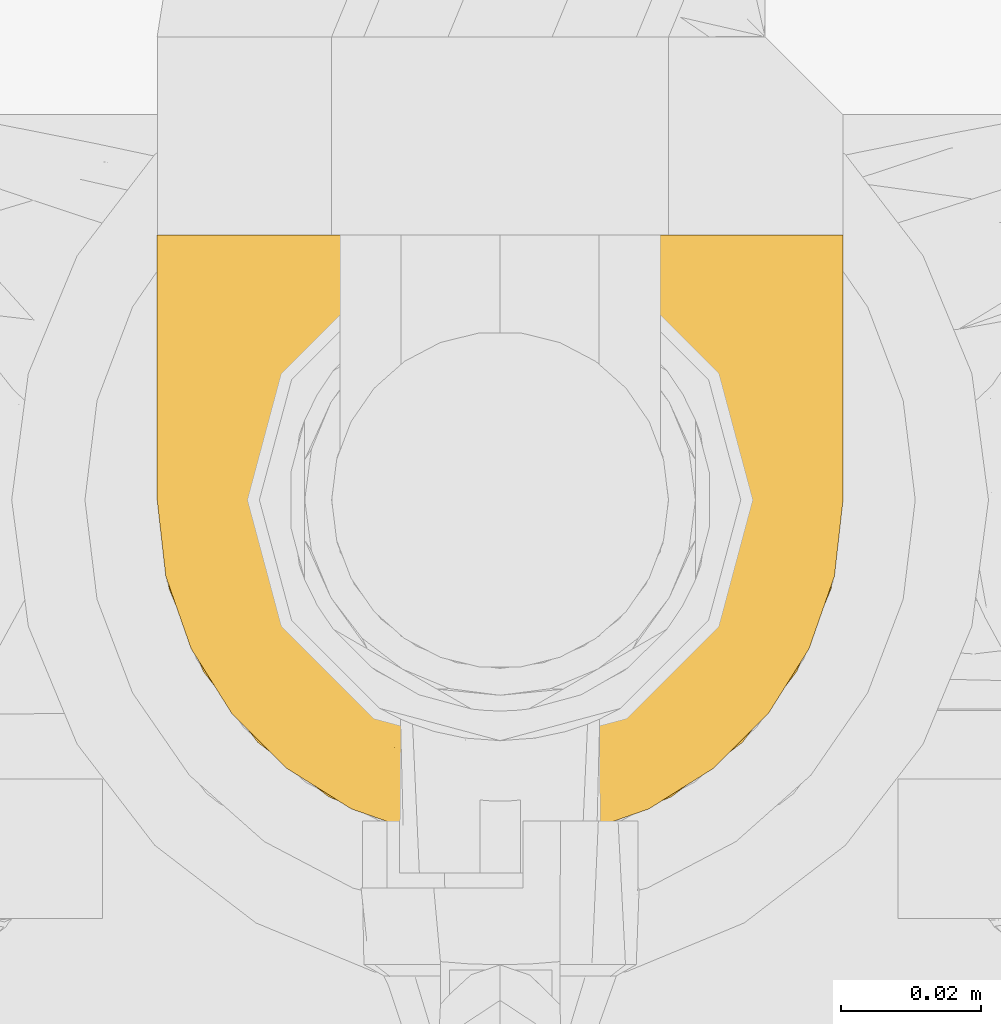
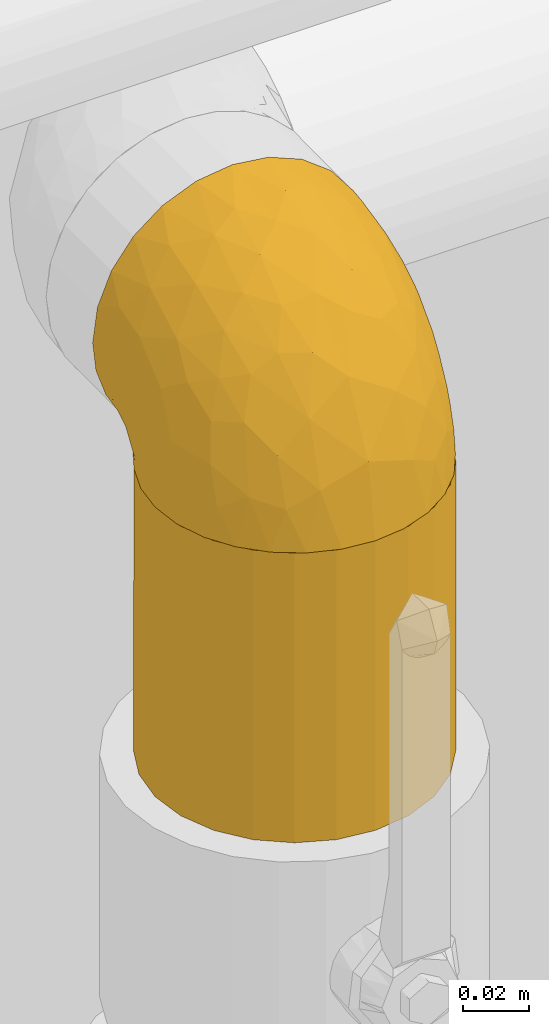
# One storey, part 26 of 94: 2 coverings.
"""IFC2X3 building model written with IfcOpenShell, lengths in millimetres."""

from ifc_helpers import new_model, entity, si_unit, converted_unit, derived_unit, direction, frame, origin, place, context, subcontext, project, spatial, faceted_brep, material, element, save


model = new_model("IFC2X3")

# Units and contexts
model_context = context("Model", 3, precision=0.01, world=origin(), true_north=direction((6.123031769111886e-17, 1.0)))
body_context = subcontext(model_context, "Body", "Model", "MODEL_VIEW")
ifc_project = project(units=[si_unit("LENGTHUNIT", "METRE", prefix="MILLI"), si_unit("AREAUNIT", "SQUARE_METRE"), si_unit("VOLUMEUNIT", "CUBIC_METRE"), converted_unit("PLANEANGLEUNIT", "DEGREE", entity("IfcRatioMeasure", 0.017453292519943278), si_unit("PLANEANGLEUNIT", "RADIAN"), dimensions=[0, 0, 0, 0, 0, 0, 0]), si_unit("MASSUNIT", "GRAM", prefix="KILO"), derived_unit("MASSDENSITYUNIT", [(si_unit("MASSUNIT", "GRAM", prefix="KILO"), 1), (si_unit("LENGTHUNIT", "METRE"), -3)]), derived_unit("IONCONCENTRATIONUNIT", [(si_unit("MASSUNIT", "GRAM", prefix="KILO"), 1), (si_unit("LENGTHUNIT", "METRE"), -3)]), derived_unit("MOMENTOFINERTIAUNIT", [(si_unit("LENGTHUNIT", "METRE"), 4)]), si_unit("TIMEUNIT", "SECOND"), si_unit("FREQUENCYUNIT", "HERTZ"), si_unit("THERMODYNAMICTEMPERATUREUNIT", "DEGREE_CELSIUS"), derived_unit("THERMALTRANSMITTANCEUNIT", [(si_unit("MASSUNIT", "GRAM", prefix="KILO"), 1), (si_unit("THERMODYNAMICTEMPERATUREUNIT", "KELVIN"), -1), (si_unit("TIMEUNIT", "SECOND"), -3)]), derived_unit("THERMALCONDUCTANCEUNIT", [(si_unit("MASSUNIT", "GRAM", prefix="KILO"), 1), (si_unit("THERMODYNAMICTEMPERATUREUNIT", "KELVIN"), -1), (si_unit("TIMEUNIT", "SECOND"), -3), (si_unit("LENGTHUNIT", "METRE"), 1)]), derived_unit("VOLUMETRICFLOWRATEUNIT", [(si_unit("LENGTHUNIT", "METRE"), 3), (si_unit("TIMEUNIT", "SECOND"), -1)]), derived_unit("MASSFLOWRATEUNIT", [(si_unit("MASSUNIT", "GRAM", prefix="KILO"), 1), (si_unit("TIMEUNIT", "SECOND"), -1)]), derived_unit("ROTATIONALFREQUENCYUNIT", [(si_unit("TIMEUNIT", "SECOND"), -1)]), si_unit("ELECTRICCURRENTUNIT", "AMPERE"), si_unit("ELECTRICVOLTAGEUNIT", "VOLT"), si_unit("POWERUNIT", "WATT"), si_unit("FORCEUNIT", "NEWTON", prefix="KILO"), si_unit("ILLUMINANCEUNIT", "LUX"), si_unit("LUMINOUSFLUXUNIT", "LUMEN"), si_unit("LUMINOUSINTENSITYUNIT", "CANDELA"), derived_unit("USERDEFINED", [(si_unit("MASSUNIT", "GRAM", prefix="KILO"), -1), (si_unit("LENGTHUNIT", "METRE"), -2), (si_unit("TIMEUNIT", "SECOND"), 3), (si_unit("LUMINOUSFLUXUNIT", "LUMEN"), 1)]), derived_unit("USERDEFINED", [(si_unit("MASSUNIT", "GRAM", prefix="KILO"), 1), (si_unit("TIMEUNIT", "SECOND"), -3), (si_unit("LENGTHUNIT", "METRE"), 3), (si_unit("ELECTRICCURRENTUNIT", "AMPERE"), -2)]), derived_unit("SOUNDPOWERUNIT", [(si_unit("MASSUNIT", "GRAM", prefix="KILO"), 1), (si_unit("TIMEUNIT", "SECOND"), -3), (si_unit("LENGTHUNIT", "METRE"), 2)]), derived_unit("SOUNDPRESSUREUNIT", [(si_unit("MASSUNIT", "GRAM", prefix="KILO"), 1), (si_unit("LENGTHUNIT", "METRE"), -1), (si_unit("TIMEUNIT", "SECOND"), -2)]), derived_unit("LINEARVELOCITYUNIT", [(si_unit("LENGTHUNIT", "METRE"), 1), (si_unit("TIMEUNIT", "SECOND"), -1)]), si_unit("PRESSUREUNIT", "PASCAL"), derived_unit("USERDEFINED", [(si_unit("MASSUNIT", "GRAM", prefix="KILO"), 1), (si_unit("LENGTHUNIT", "METRE"), -2), (si_unit("TIMEUNIT", "SECOND"), -2)]), derived_unit("LINEARFORCEUNIT", [(si_unit("MASSUNIT", "GRAM", prefix="KILO"), 1), (si_unit("TIMEUNIT", "SECOND"), -2)]), derived_unit("PLANARFORCEUNIT", [(si_unit("MASSUNIT", "GRAM", prefix="KILO"), 1), (si_unit("LENGTHUNIT", "METRE"), -1), (si_unit("TIMEUNIT", "SECOND"), -2)]), derived_unit("SPECIFICHEATCAPACITYUNIT", [(si_unit("THERMODYNAMICTEMPERATUREUNIT", "KELVIN"), -1), (si_unit("LENGTHUNIT", "METRE"), 2), (si_unit("TIMEUNIT", "SECOND"), -2)]), derived_unit("HEATINGVALUEUNIT", [(si_unit("LENGTHUNIT", "METRE"), 2), (si_unit("TIMEUNIT", "SECOND"), -2)]), derived_unit("VAPORPERMEABILITYUNIT", [(si_unit("LENGTHUNIT", "METRE"), -1), (si_unit("TIMEUNIT", "SECOND"), 1)]), derived_unit("DYNAMICVISCOSITYUNIT", [(si_unit("MASSUNIT", "GRAM", prefix="KILO"), 1), (si_unit("TIMEUNIT", "SECOND"), -1), (si_unit("LENGTHUNIT", "METRE"), -1)]), derived_unit("THERMALEXPANSIONCOEFFICIENTUNIT", [(si_unit("THERMODYNAMICTEMPERATUREUNIT", "KELVIN"), -1)]), derived_unit("MODULUSOFELASTICITYUNIT", [(si_unit("MASSUNIT", "GRAM", prefix="KILO"), 1), (si_unit("LENGTHUNIT", "METRE"), -1), (si_unit("TIMEUNIT", "SECOND"), -2)]), derived_unit("ISOTHERMALMOISTURECAPACITYUNIT", [(si_unit("LENGTHUNIT", "METRE"), 3), (si_unit("MASSUNIT", "GRAM", prefix="KILO"), -1)]), derived_unit("MOISTUREDIFFUSIVITYUNIT", [(si_unit("TIMEUNIT", "SECOND"), -1), (si_unit("LENGTHUNIT", "METRE"), 2)])], contexts=[model_context])

# Site, building, storey
site_placement = place(None, origin())
site = spatial("IfcSite", under=ifc_project, at=site_placement, Name="Default", CompositionType="ELEMENT")
building_placement = place(site_placement, origin())
building = spatial("IfcBuilding", under=site, at=building_placement, CompositionType="ELEMENT")
storey_placement = place(building_placement, origin())
storey = spatial("IfcBuildingStorey", under=building, at=storey_placement, Name="Niveau 0", CompositionType="ELEMENT", Elevation=0.0)

# Coverings
ifc_material = material(Name="Isolation - Laine minérale")
covering_1_placement = place(storey_placement, frame((-7722.891137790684, 9871.725273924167, 2310.404727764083)))
element("IfcCovering", 1, at=covering_1_placement, inside=storey, material=ifc_material, Name="Isolation des canalisations:Laine minérale", ObjectType="Isolation des canalisations:Laine minérale", PredefinedType="INSULATION", context=body_context, shape_type="Brep", body=[
    faceted_brep([(95.02415814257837, 29.412134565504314, 1.595272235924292), (89.16631019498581, 20.093252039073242, 1.595272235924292), (81.38263886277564, 12.312548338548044, 1.595272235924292), (72.06354573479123, 6.459227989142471, 1.595272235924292), (61.67593083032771, 2.826140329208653, 1.595272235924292), (50.74527223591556, 1.5952722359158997, 1.595272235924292), (39.80290363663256, 2.8288129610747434, 1.595272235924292), (29.41213456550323, 6.466386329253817, 1.595272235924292), (20.093252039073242, 12.324234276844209, 1.595272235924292), (12.31254833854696, 20.107905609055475, 1.595272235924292), (6.459227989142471, 29.426998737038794, 1.595272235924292), (2.826140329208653, 39.81461364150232, 1.595272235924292), (1.5952722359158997, 50.74527223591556, 1.595272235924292), (2.765001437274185, 61.40435822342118, 1.595272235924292), (6.216868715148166, 71.55257335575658, 1.595272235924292), (11.785042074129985, 80.70896636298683, 1.595272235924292), (19.19437336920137, 88.43165280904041, 1.595272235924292), (21.63864226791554, 88.43165280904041, 1.5952722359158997), (23.41569473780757, 88.43165280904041, 1.5952722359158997), (25.192747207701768, 88.43165280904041, 1.5952722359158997), (26.692340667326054, 88.43165280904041, 1.5952722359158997), (28.191934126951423, 88.43165280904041, 1.5952722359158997), (31.191121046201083, 88.43165280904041, 1.5952722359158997), (34.19030796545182, 88.43165280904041, 1.5952722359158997), (37.18949488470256, 88.43165280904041, 1.5952722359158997), (40.18868180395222, 88.43165280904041, 1.5952722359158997), (41.68827526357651, 88.43165280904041, 1.5952722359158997), (43.18786872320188, 88.43165280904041, 1.5952722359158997), (45.63213762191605, 88.43165280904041, 1.5952722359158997), (48.07640652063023, 88.43165280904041, 1.5952722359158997), (50.5206754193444, 88.43165280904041, 1.5952722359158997), (52.96494431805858, 88.43165280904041, 1.5952722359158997), (55.40921321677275, 88.43165280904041, 1.5952722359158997), (57.853482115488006, 88.43165280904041, 1.5952722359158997), (60.29775101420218, 88.43165280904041, 1.595272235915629), (62.74201991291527, 88.43165280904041, 1.5952722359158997), (65.18628881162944, 88.43165280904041, 1.5952722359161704), (67.6305577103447, 88.43165280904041, 1.5952722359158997), (70.07482660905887, 88.43165280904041, 1.5952722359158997), (72.51909550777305, 88.43165280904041, 1.5952722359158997), (74.96336440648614, 88.43165280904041, 1.5952722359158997), (77.4076333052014, 88.43165280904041, 1.5952722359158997), (79.85190220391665, 88.43165280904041, 1.595272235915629), (82.29617110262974, 88.43165280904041, 1.595272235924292), (89.71827412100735, 80.69235262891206, 1.595272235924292), (95.28368576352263, 71.53113811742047, 1.595272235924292), (98.73008326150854, 61.3839004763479, 1.595272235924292), (99.89527223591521, 50.74527223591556, 1.595272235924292), (98.66173151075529, 39.80290363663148, 1.595272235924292), (11.777056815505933, 88.74527223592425, 9.641963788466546), (6.211862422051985, 88.74527223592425, 18.798688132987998), (2.7632985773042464, 88.74527223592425, 28.94385431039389), (1.5952722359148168, 88.74527223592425, 39.59527223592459), (3.270017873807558, 88.74527223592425, 52.31622830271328), (8.18012363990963, 88.74527223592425, 64.17027223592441), (15.990973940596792, 88.74527223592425, 74.34957053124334), (26.17027223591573, 88.74527223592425, 82.16042083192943), (38.02431616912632, 88.74527223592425, 87.07052659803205), (50.74527223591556, 88.74527223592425, 88.74527223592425), (63.466228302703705, 88.74527223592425, 87.07052659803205), (75.32027223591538, 88.74527223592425, 82.16042083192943), (85.49957053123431, 88.74527223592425, 74.34957053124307), (93.3104208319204, 88.74527223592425, 64.17027223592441), (98.22052659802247, 88.74527223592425, 52.31622830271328), (99.89527223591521, 88.74527223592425, 39.59527223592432), (98.72724589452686, 88.74527223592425, 28.94385431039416), (95.27868204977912, 88.74527223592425, 18.798688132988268), (89.71348765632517, 88.74527223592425, 9.641963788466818), (82.29617110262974, 88.74527223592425, 1.9088916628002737), (79.85190220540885, 88.74527223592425, 1.908891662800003), (78.3523087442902, 88.74527223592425, 1.908891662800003), (76.3803775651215, 88.74527223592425, 1.908891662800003), (74.40844638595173, 88.74527223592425, 1.908891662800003), (72.43651520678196, 88.74527223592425, 1.908891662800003), (70.46458402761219, 88.74527223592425, 1.908891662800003), (68.49265284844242, 88.74527223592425, 1.9088916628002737), (66.52072166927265, 88.74527223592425, 1.908891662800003), (64.54879049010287, 88.74527223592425, 1.908891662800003), (62.5768593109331, 88.74527223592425, 1.9088916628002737), (60.60492813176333, 88.74527223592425, 1.908891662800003), (58.632996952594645, 88.74527223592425, 1.908891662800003), (56.661065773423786, 88.74527223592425, 1.9088916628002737), (54.6891345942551, 88.74527223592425, 1.908891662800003), (52.71720341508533, 88.74527223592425, 1.908891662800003), (50.74527223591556, 88.74527223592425, 1.908891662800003), (48.7733410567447, 88.74527223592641, 1.9088916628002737), (46.80140987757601, 88.74527223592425, 1.9088916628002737), (44.82947869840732, 88.74527223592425, 1.9088916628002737), (42.85754751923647, 88.74527223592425, 1.908891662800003), (40.8856163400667, 88.74527223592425, 1.9088916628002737), (38.913685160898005, 88.74527223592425, 1.9088916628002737), (36.94175398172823, 88.74527223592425, 1.908891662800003), (34.96982280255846, 88.74527223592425, 1.908891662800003), (31.97063588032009, 88.74527223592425, 1.908891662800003), (28.97144895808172, 88.74527223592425, 1.908891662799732), (26.5271800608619, 88.74527223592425, 1.908891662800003), (24.082911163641, 88.74527223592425, 1.9088916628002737), (21.638642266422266, 88.74527223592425, 1.908891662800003), (19.19437336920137, 88.74527223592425, 1.908891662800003), (53.75333970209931, 88.53090125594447, 1.8241875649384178), (51.832765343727, 88.52210831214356, 1.8156242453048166), (61.47290163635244, 88.52122178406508, 1.8147227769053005), (63.56282540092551, 88.5277799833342, 1.821224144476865), (48.00102702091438, 88.5409253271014, 1.8331787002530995), (77.24999397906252, 88.53506454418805, 1.8280164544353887), (80.69913834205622, 88.49130573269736, 1.7792781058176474), (42.43807145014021, 88.51810292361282, 1.8114926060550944), (22.860776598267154, 88.52350981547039, 1.8170346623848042), (24.70021643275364, 88.52548149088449, 1.8189889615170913), (71.3700895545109, 88.5165327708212, 1.809830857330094), (73.40383885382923, 88.52674320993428, 1.8202215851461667), (44.410002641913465, 88.5046900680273, 1.7964621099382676), (37.92771907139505, 88.52964682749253, 1.8230063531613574), (39.81308540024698, 88.53317608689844, 1.8262968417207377), (35.95578792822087, 88.51585328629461, 1.8091041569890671), (49.75930651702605, 88.52914218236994, 1.8225274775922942), (21.02757498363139, 88.5259180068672, 1.8194169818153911), (55.67510065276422, 88.5366490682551, 1.8294378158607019), (67.50668767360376, 88.5374788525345, 1.83017445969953), (65.61454699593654, 88.53273195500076, 1.8258883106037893), (34.10458092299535, 88.53426299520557, 1.8272900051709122), (57.55217518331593, 88.53370000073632, 1.8267767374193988), (79.10210557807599, 88.52350981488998, 1.8170346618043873), (75.39441218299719, 88.53493173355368, 1.8278964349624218), (82.29617110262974, 88.5235098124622, 1.8170346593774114), (82.29617110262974, 88.49487979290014, 1.747915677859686), (82.29617110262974, 88.46624977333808, 1.6787966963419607), (19.19437336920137, 88.5235098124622, 1.8170346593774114), (19.19437336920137, 88.59262879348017, 1.8456646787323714), (19.19437336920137, 88.66174777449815, 1.8742946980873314), (32.212157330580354, 88.51000647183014, 1.8026539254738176), (69.4355922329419, 88.5304248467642, 1.823740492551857), (46.24828797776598, 88.52246762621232, 1.8159875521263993), (59.49061335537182, 88.52470424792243, 1.8182226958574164), (29.41925201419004, 88.50579329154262, 1.7977740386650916), (27.44213716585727, 88.52744143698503, 1.8208977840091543), (82.29617110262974, 88.66174777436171, 1.8742946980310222), (82.29617110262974, 88.59262879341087, 1.8456646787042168), (19.19437336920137, 88.46624977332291, 1.6787966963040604), (19.19437336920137, 88.49487979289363, 1.7479156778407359), (4.210283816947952, 85.22080157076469, 23.495219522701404), (8.744179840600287, 85.93611072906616, 13.747756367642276), (4.210283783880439, 81.07807843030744, 22.409779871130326), (9.955583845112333, 83.13289242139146, 10.562522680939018), (1.5952722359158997, 79.24527223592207, 37.049754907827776), (1.5952722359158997, 81.28890223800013, 37.59734391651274), (1.5952722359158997, 55.83630689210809, 20.59527223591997), (2.93549782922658, 66.39553001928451, 16.020149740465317), (4.213452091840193, 67.9404040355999, 9.261677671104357), (1.5952722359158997, 69.7452722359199, 34.50423757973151), (9.405305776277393, 80.67378389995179, 9.667897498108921), (9.963487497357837, 79.78892094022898, 7.202912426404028), (2.9356418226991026, 74.32109358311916, 23.94474674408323), (4.213452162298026, 66.85470593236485, 5.119390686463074), (8.750654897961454, 76.60336361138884, 4.402893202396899), (5.690627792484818, 79.64911936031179, 17.541506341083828), (1.5952722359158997, 52.74320051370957, 9.051642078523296), (1.5952722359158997, 53.290789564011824, 11.095272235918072), (4.482619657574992, 73.61168493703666, 16.7288594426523), (1.5952722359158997, 62.790789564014, 27.549754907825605), (5.766057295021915, 73.87988529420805, 12.071559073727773), (2.6117250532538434, 75.3291367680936, 47.62395095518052), (2.657531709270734, 65.91074185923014, 44.00144112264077), (11.131578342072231, 53.84761415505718, 58.899698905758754), (20.82464790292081, 59.13651173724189, 72.6677148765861), (11.7519547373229, 71.16612245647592, 67.20155656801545), (5.336592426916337, 67.00545271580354, 54.07984229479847), (5.336592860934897, 78.88051287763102, 57.54110754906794), (50.74527223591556, 37.51978749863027, 72.10110329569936), (50.74527223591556, 61.81444117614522, 84.47984763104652), (40.339739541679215, 53.87520138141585, 80.2480135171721), (9.124243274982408, 25.78494399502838, 13.851436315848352), (4.351045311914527, 36.244182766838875, 15.165285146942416), (32.64695426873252, 29.562882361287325, 60.77765845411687), (23.768909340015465, 30.77068194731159, 55.385836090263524), (35.61531809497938, 15.292222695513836, 43.89737524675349), (41.696133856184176, 71.31385843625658, 86.1264811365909), (30.50981773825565, 47.24102741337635, 73.23168363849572), (21.748430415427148, 43.50389303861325, 64.74738573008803), (20.824647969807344, 75.28985257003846, 77.40373146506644), (31.93638275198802, 67.10273039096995, 82.14716981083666), (15.984346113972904, 37.099200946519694, 52.82911549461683), (9.509703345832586, 44.515176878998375, 48.878965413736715), (11.405769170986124, 33.70477633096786, 40.607220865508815), (3.7235321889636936, 44.051694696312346, 28.76995319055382), (9.124242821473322, 30.04408126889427, 27.44844566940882), (15.984347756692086, 18.312338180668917, 19.800365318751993), (50.74527223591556, 5.860696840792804, 28.52610329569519), (34.50535109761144, 7.041406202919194, 22.71562192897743), (18.535934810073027, 25.61446965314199, 42.31748570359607), (24.588194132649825, 15.886915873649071, 33.6838277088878), (24.588193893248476, 10.600409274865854, 16.806973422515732), (39.07585882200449, 38.50378416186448, 71.0785805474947), (42.346184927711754, 25.345180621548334, 60.332491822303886), (2.5632520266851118, 53.16350413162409, 33.37332146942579), (50.74527223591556, 18.23944117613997, 52.82075697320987), (4.722449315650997, 52.69469876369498, 43.4654296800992), (69.5541610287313, 58.175892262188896, 79.20017463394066), (59.5851078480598, 71.7009127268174, 86.2448880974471), (59.865425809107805, 54.574333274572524, 80.8380701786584), (66.13789702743, 42.49805076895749, 72.52816019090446), (69.55416221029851, 75.0623548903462, 83.8739788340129), (85.49332197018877, 24.525141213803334, 35.798660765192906), (78.98858976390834, 25.786342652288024, 48.02046276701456), (76.88743080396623, 15.878231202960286, 33.68736739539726), (85.49294527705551, 37.089792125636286, 52.83844921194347), (78.28666517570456, 35.7133620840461, 59.755981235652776), (97.13479117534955, 36.23150879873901, 15.170016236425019), (98.95303587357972, 70.53804152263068, 45.55141709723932), (99.89527223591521, 69.7452722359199, 34.50423757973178), (99.89527223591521, 79.24527223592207, 37.049754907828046), (66.97173870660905, 7.036299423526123, 22.71467774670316), (80.66589652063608, 69.2408611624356, 76.07714087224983), (92.35692696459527, 30.030512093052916, 27.454651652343), (92.35692651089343, 25.770245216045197, 13.854008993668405), (89.73858944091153, 76.87540408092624, 68.47065883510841), (96.15395178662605, 74.00473445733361, 56.4584334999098), (79.62483877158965, 48.41047025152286, 68.08854506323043), (89.7385902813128, 62.62553049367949, 64.29272071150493), (59.508159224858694, 31.2207767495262, 66.01125638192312), (68.8345286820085, 29.56034539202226, 60.7801954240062), (99.01263503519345, 79.82666983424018, 48.01911236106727), (76.887431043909, 10.591274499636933, 16.809109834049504), (65.85652255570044, 15.287247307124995, 43.900853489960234), (85.49294363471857, 18.299506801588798, 19.803681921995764), (97.76388503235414, 44.04987097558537, 28.786726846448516), (99.89527223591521, 55.83630689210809, 20.595272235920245), (98.78930951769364, 54.23536248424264, 35.485066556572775), (99.89527223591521, 62.790789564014, 27.549754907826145), (99.89527223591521, 52.74320051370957, 9.051642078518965), (99.89527223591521, 53.290789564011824, 11.095272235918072), (91.50386042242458, 48.41211537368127, 53.16291239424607), (96.42683125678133, 64.14304703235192, 52.05308452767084), (93.1499194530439, 40.10640265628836, 41.401037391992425), (99.08337182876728, 62.890734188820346, 40.721221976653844), (86.09107557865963, 47.67277833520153, 60.91677547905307), (96.67816905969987, 55.38955823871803, 45.9406116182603), (97.28026029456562, 81.0780784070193, 22.409778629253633), (95.72662397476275, 78.26566497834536, 16.464254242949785), (98.5546584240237, 74.32072912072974, 23.943292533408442), (97.28026045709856, 85.22080145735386, 23.495218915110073), (92.74636428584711, 85.93611080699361, 13.74775580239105), (91.53641117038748, 83.13257230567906, 10.564867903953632), (90.1127562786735, 82.68198005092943, 7.656624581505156), (97.0051951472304, 73.61706381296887, 16.723481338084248), (91.54965419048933, 79.75777141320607, 7.216517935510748), (97.2842704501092, 67.91845358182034, 9.263185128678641), (97.28427059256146, 66.83334757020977, 5.119593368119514), (92.7514749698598, 76.5844900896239, 4.405878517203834), (98.55441347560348, 66.39770760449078, 16.01862728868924), (95.80583125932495, 72.7838259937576, 10.692146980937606)], [[[0, 1, 2, 3, 4, 5, 6, 7, 8, 9, 10, 11, 12, 13, 14, 15, 16, 17, 18, 19, 20, 21, 22, 23, 24, 25, 26, 27, 28, 29, 30, 31, 32, 33, 34, 35, 36, 37, 38, 39, 40, 41, 42, 43, 44, 45, 46, 47, 48]], [[49, 50, 51, 52, 53, 54, 55, 56, 57, 58, 59, 60, 61, 62, 63, 64, 65, 66, 67, 68, 69, 70, 71, 72, 73, 74, 75, 76, 77, 78, 79, 80, 81, 82, 83, 84, 85, 86, 87, 88, 89, 90, 91, 92, 93, 94, 95, 96, 97, 98]], [[99, 100, 83]], [[101, 102, 35]], [[85, 103, 86]], [[71, 70, 104]], [[105, 69, 68]], [[27, 26, 106]], [[18, 107, 108]], [[109, 73, 110]], [[28, 27, 111]], [[25, 112, 113]], [[108, 96, 95]], [[114, 92, 91]], [[103, 85, 115]], [[96, 107, 97]], [[107, 17, 116]], [[78, 102, 101]], [[99, 117, 32]], [[76, 118, 119]], [[120, 92, 114]], [[112, 90, 113]], [[88, 111, 106]], [[40, 39, 110]], [[107, 96, 108]], [[32, 117, 121]], [[91, 90, 112]], [[37, 119, 118]], [[84, 115, 85]], [[69, 105, 122]], [[71, 123, 72]], [[105, 124, 125, 126, 43]], [[116, 17, 16]], [[122, 70, 69]], [[41, 122, 42]], [[116, 127, 128, 129, 98]], [[110, 123, 40]], [[42, 122, 105]], [[120, 23, 130]], [[24, 114, 112]], [[114, 24, 23]], [[104, 123, 71]], [[91, 112, 114]], [[104, 122, 41]], [[24, 112, 25]], [[110, 72, 123]], [[36, 119, 37]], [[40, 123, 41]], [[74, 73, 109]], [[131, 75, 74]], [[118, 131, 37]], [[109, 110, 39]], [[109, 39, 38]], [[73, 72, 110]], [[123, 104, 41]], [[122, 104, 70]], [[26, 25, 113]], [[113, 89, 106]], [[87, 86, 132]], [[113, 106, 26]], [[76, 75, 118]], [[132, 111, 87]], [[106, 111, 27]], [[132, 28, 111]], [[87, 111, 88]], [[88, 106, 89]], [[113, 90, 89]], [[131, 118, 75]], [[38, 37, 131]], [[119, 36, 102]], [[131, 109, 38]], [[109, 131, 74]], [[78, 77, 102]], [[77, 119, 102]], [[77, 76, 119]], [[121, 80, 133]], [[36, 35, 102]], [[33, 121, 133]], [[79, 78, 101]], [[34, 101, 35]], [[132, 29, 28]], [[80, 79, 133]], [[29, 103, 115]], [[30, 29, 115]], [[86, 103, 132]], [[100, 115, 84]], [[31, 30, 100]], [[115, 100, 30]], [[32, 31, 99]], [[117, 81, 121]], [[100, 84, 83]], [[99, 82, 117]], [[81, 117, 82]], [[33, 32, 121]], [[82, 99, 83]], [[100, 99, 31]], [[34, 33, 133]], [[121, 81, 80]], [[133, 101, 34]], [[101, 133, 79]], [[134, 94, 93]], [[23, 120, 114]], [[132, 103, 29]], [[120, 93, 92]], [[93, 120, 130]], [[97, 107, 116]], [[108, 20, 19, 18]], [[21, 135, 134]], [[20, 135, 21]], [[134, 135, 94]], [[108, 95, 135]], [[108, 135, 20]], [[135, 95, 94]], [[134, 22, 21]], [[130, 22, 134]], [[42, 105, 43]], [[105, 68, 136, 137, 124]], [[97, 116, 98]], [[116, 16, 138, 139, 127]], [[18, 17, 107]], [[93, 130, 134]], [[22, 130, 23]], [[140, 141, 142]], [[143, 129, 128, 127]], [[51, 144, 145, 52]], [[146, 147, 148]], [[142, 149, 144]], [[150, 127, 151]], [[50, 140, 51]], [[142, 152, 149]], [[51, 140, 144]], [[129, 143, 141]], [[14, 13, 153]], [[148, 151, 154]], [[155, 141, 143]], [[151, 138, 154]], [[14, 153, 154]], [[16, 15, 138]], [[13, 12, 156, 157]], [[152, 155, 158]], [[159, 158, 147]], [[157, 148, 153]], [[14, 154, 15]], [[49, 98, 129]], [[49, 129, 141]], [[141, 50, 49]], [[160, 148, 147]], [[146, 148, 157]], [[138, 15, 154]], [[150, 158, 155]], [[151, 127, 139, 138]], [[141, 140, 50]], [[144, 140, 142]], [[157, 153, 13]], [[154, 153, 148]], [[149, 152, 159]], [[160, 147, 158]], [[147, 146, 159]], [[155, 152, 142]], [[159, 152, 158]], [[127, 150, 143]], [[160, 150, 151]], [[150, 160, 158]], [[148, 160, 151]], [[141, 155, 142]], [[155, 143, 150]], [[156, 12, 11]], [[161, 149, 162]], [[163, 164, 165]], [[166, 167, 161]], [[168, 169, 170]], [[54, 165, 55]], [[171, 172, 10]], [[173, 174, 175]], [[57, 176, 58]], [[173, 177, 178]], [[179, 56, 55]], [[54, 167, 165]], [[170, 180, 177]], [[56, 179, 180]], [[167, 54, 53]], [[181, 182, 183]], [[184, 146, 172]], [[172, 185, 184]], [[186, 185, 171]], [[186, 9, 8]], [[172, 146, 157, 156]], [[172, 11, 10]], [[173, 178, 174]], [[6, 187, 188]], [[189, 186, 190]], [[191, 186, 8]], [[175, 190, 188]], [[168, 192, 193]], [[189, 190, 174]], [[56, 180, 57]], [[8, 7, 191]], [[188, 7, 6]], [[6, 5, 187]], [[190, 191, 188]], [[159, 194, 162]], [[175, 187, 195]], [[177, 180, 164]], [[10, 9, 171]], [[176, 180, 170]], [[156, 11, 172]], [[163, 165, 166]], [[179, 165, 164]], [[53, 52, 145]], [[185, 189, 183]], [[184, 196, 194]], [[188, 191, 7]], [[186, 191, 190]], [[186, 171, 9]], [[172, 171, 185]], [[187, 175, 188]], [[193, 175, 195]], [[196, 163, 166]], [[163, 181, 178]], [[162, 166, 161]], [[184, 185, 183]], [[178, 177, 164]], [[177, 192, 170]], [[177, 173, 192]], [[176, 170, 169]], [[58, 176, 169]], [[57, 180, 176]], [[193, 192, 173]], [[168, 170, 192]], [[175, 193, 173]], [[168, 193, 195]], [[163, 178, 164]], [[184, 194, 146]], [[178, 181, 174]], [[189, 174, 181]], [[175, 174, 190]], [[183, 189, 181]], [[186, 189, 185]], [[182, 181, 163]], [[183, 182, 184]], [[163, 196, 182]], [[184, 182, 196]], [[165, 179, 55]], [[180, 179, 164]], [[161, 53, 145]], [[165, 167, 166]], [[53, 161, 167]], [[161, 145, 144, 149]], [[159, 162, 149]], [[196, 166, 162]], [[162, 194, 196]], [[146, 194, 159]], [[197, 198, 199]], [[58, 169, 198]], [[197, 199, 200]], [[198, 197, 201]], [[202, 203, 204]], [[60, 59, 201]], [[205, 206, 203]], [[0, 48, 207]], [[208, 209, 210]], [[187, 4, 211]], [[201, 212, 60]], [[213, 214, 207]], [[61, 215, 62]], [[62, 215, 216]], [[3, 211, 4]], [[217, 218, 212]], [[219, 220, 200]], [[216, 208, 221]], [[3, 2, 222]], [[62, 216, 63]], [[61, 60, 212]], [[211, 3, 222]], [[5, 4, 187]], [[217, 197, 200]], [[203, 223, 204]], [[2, 1, 224]], [[225, 213, 207]], [[204, 222, 224]], [[1, 0, 214]], [[204, 224, 202]], [[207, 226, 225]], [[227, 226, 228]], [[223, 211, 204]], [[214, 224, 1]], [[202, 224, 213]], [[48, 47, 229]], [[207, 229, 230, 226]], [[211, 223, 187]], [[218, 231, 232]], [[48, 229, 207]], [[205, 233, 231]], [[233, 213, 225]], [[217, 212, 197]], [[215, 212, 218]], [[228, 234, 227]], [[233, 205, 202]], [[208, 234, 209]], [[63, 221, 64]], [[235, 205, 231]], [[207, 214, 0]], [[224, 214, 213]], [[224, 222, 2]], [[211, 222, 204]], [[219, 223, 220]], [[187, 223, 195]], [[227, 233, 225]], [[234, 228, 209]], [[231, 233, 236]], [[221, 208, 210]], [[232, 208, 216]], [[64, 221, 210]], [[216, 221, 63]], [[233, 202, 213]], [[203, 202, 205]], [[205, 235, 206]], [[223, 203, 220]], [[200, 206, 217]], [[220, 203, 206]], [[232, 231, 236]], [[235, 218, 217]], [[212, 215, 61]], [[216, 215, 218]], [[218, 232, 216]], [[234, 232, 236]], [[232, 234, 208]], [[234, 236, 227]], [[233, 227, 236]], [[226, 227, 225]], [[198, 201, 59]], [[212, 201, 197]], [[58, 198, 59]], [[198, 169, 199]], [[169, 168, 199]], [[219, 200, 199]], [[219, 199, 168]], [[200, 220, 206]], [[168, 195, 219]], [[223, 219, 195]], [[218, 235, 231]], [[206, 235, 217]], [[65, 64, 210]], [[209, 237, 210]], [[238, 237, 239]], [[66, 240, 241]], [[242, 136, 241]], [[243, 137, 242]], [[243, 244, 245]], [[65, 240, 66]], [[136, 68, 67]], [[136, 67, 241]], [[246, 226, 230]], [[66, 241, 67]], [[210, 237, 240]], [[45, 247, 46]], [[209, 239, 237]], [[246, 247, 248]], [[46, 247, 230]], [[249, 250, 244]], [[239, 228, 244]], [[226, 246, 249]], [[250, 248, 245]], [[44, 43, 126]], [[237, 242, 241]], [[248, 45, 44]], [[44, 126, 248]], [[46, 230, 229, 47]], [[245, 126, 125]], [[126, 245, 248]], [[243, 124, 137]], [[210, 240, 65]], [[241, 240, 237]], [[248, 247, 45]], [[230, 247, 246]], [[226, 249, 228]], [[238, 239, 244]], [[239, 209, 228]], [[250, 249, 246]], [[228, 249, 244]], [[243, 242, 238]], [[136, 242, 137]], [[124, 243, 125]], [[125, 243, 245]], [[243, 238, 244]], [[237, 238, 242]], [[248, 250, 246]], [[244, 250, 245]]]),
])
covering_2_placement = place(storey_placement, frame((-7722.871137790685, 9871.745273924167, 2313.5952722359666)))
element("IfcCovering", 2, at=covering_2_placement, inside=storey, material=ifc_material, Name="Isolation des canalisations:Laine minérale", ObjectType="Isolation des canalisations:Laine minérale", PredefinedType="INSULATION", context=body_context, shape_type="Brep", body=[
    faceted_brep([(93.2731003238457, 26.16027223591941, -1.595272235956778), (98.18120808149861, 38.0094925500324, -1.595272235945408), (99.85527223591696, 50.72527223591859, -1.5952722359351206), (98.65694811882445, 61.510046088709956, -1.5952722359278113), (95.12737949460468, 71.75405657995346, -1.5952722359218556), (89.43799982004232, 80.97558831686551, -1.5952722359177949), (81.86619226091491, 88.7252722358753, -1.595272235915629), (19.584352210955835, 88.72527223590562, -1.5952722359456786), (12.01254465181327, 80.97558831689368, -1.5952722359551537), (6.3231649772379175, 71.75405657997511, -1.5952722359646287), (2.793596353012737, 61.51004608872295, -1.5952722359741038), (1.5952722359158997, 50.72527223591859, -1.595272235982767), (3.26933639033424, 38.0094925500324, -1.595272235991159), (8.17744414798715, 26.16027223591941, -1.5952722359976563), (15.985116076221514, 15.985116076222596, -1.5952722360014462), (26.160272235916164, 8.177444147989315, -1.595272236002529), (38.00949255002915, 3.269336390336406, -1.5952722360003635), (50.72527223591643, 1.5952722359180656, -1.5952722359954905), (63.4410519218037, 3.269336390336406, -1.5952722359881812), (75.29027223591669, 8.177444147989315, -1.5952722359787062), (85.46542839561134, 15.985116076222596, -1.5952722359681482), (98.1812080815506, 63.44105192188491, -109.37779390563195), (99.85527223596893, 50.72527223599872, -109.37779390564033), (98.1812080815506, 38.00949255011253, -109.37779390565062), (93.27310032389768, 26.160272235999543, -109.37779390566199), (85.46542839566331, 15.98511607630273, -109.37779390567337), (75.29027223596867, 8.177444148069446, -109.37779390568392), (63.441051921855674, 3.2693363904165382, -109.3777939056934), (50.725272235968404, 1.5952722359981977, -109.37779390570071), (38.00949255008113, 3.2693363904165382, -109.37779390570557), (26.16027223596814, 8.177444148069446, -109.37779390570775), (15.985116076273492, 15.98511607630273, -109.37779390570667), (8.177444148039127, 26.160272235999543, -109.37779390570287), (3.269336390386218, 38.00949255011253, -109.37779390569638), (1.5952722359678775, 50.72527223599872, -109.37779390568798), (3.269336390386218, 63.44105192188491, -109.37779390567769), (8.177444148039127, 75.2902722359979, -109.37779390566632), (15.985116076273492, 85.46542839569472, -109.37779390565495), (26.16027223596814, 93.273100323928, -109.3777939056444), (38.00949255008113, 98.1812080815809, -109.37779390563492), (50.725272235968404, 99.85527223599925, -109.37779390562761), (63.441051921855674, 98.1812080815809, -109.37779390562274), (75.29027223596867, 93.273100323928, -109.37779390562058), (85.46542839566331, 85.46542839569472, -109.37779390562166), (93.27310032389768, 75.2902722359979, -109.37779390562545), (67.26033951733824, 96.98917230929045, -9.859172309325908), (59.116085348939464, 99.1334446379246, -12.003444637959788), (50.72527223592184, 99.85527223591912, -12.72527223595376), (74.9187207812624, 93.4854633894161, -6.355463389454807), (42.334459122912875, 99.13344463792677, -12.003444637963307), (34.19020495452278, 96.98917230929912, -9.859172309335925), (26.531823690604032, 93.4854633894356, -6.3554633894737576)], [[[0, 1, 2, 3, 4, 5, 6, 7, 8, 9, 10, 11, 12, 13, 14, 15, 16, 17, 18, 19, 20]], [[21, 22, 23, 24, 25, 26, 27, 28, 29, 30, 31, 32, 33, 34, 35, 36, 37, 38, 39, 40, 41, 42, 43, 44]], [[22, 21, 3]], [[44, 43, 5]], [[21, 44, 4]], [[3, 2, 22]], [[5, 4, 44]], [[3, 21, 4]], [[43, 6, 5]], [[45, 42, 41]], [[41, 40, 46]], [[47, 46, 40]], [[48, 6, 42]], [[46, 45, 41]], [[48, 42, 45]], [[42, 6, 43]], [[49, 47, 40]], [[49, 40, 39]], [[50, 39, 38]], [[50, 49, 39]], [[7, 51, 38]], [[50, 38, 51]], [[38, 37, 7]], [[8, 37, 36]], [[9, 36, 35]], [[10, 35, 34]], [[8, 36, 9]], [[9, 35, 10]], [[34, 11, 10]], [[37, 8, 7]], [[12, 11, 34, 33]], [[13, 12, 33, 32]], [[32, 31, 14, 13]], [[16, 15, 30, 29]], [[17, 16, 29, 28]], [[31, 30, 15, 14]], [[18, 17, 28, 27]], [[19, 18, 27, 26]], [[26, 25, 20, 19]], [[1, 0, 24, 23]], [[2, 1, 23, 22]], [[25, 24, 0, 20]], [[48, 45, 46, 47, 49, 50, 51, 7, 6]]]),
])

save(model, "model.ifc")
